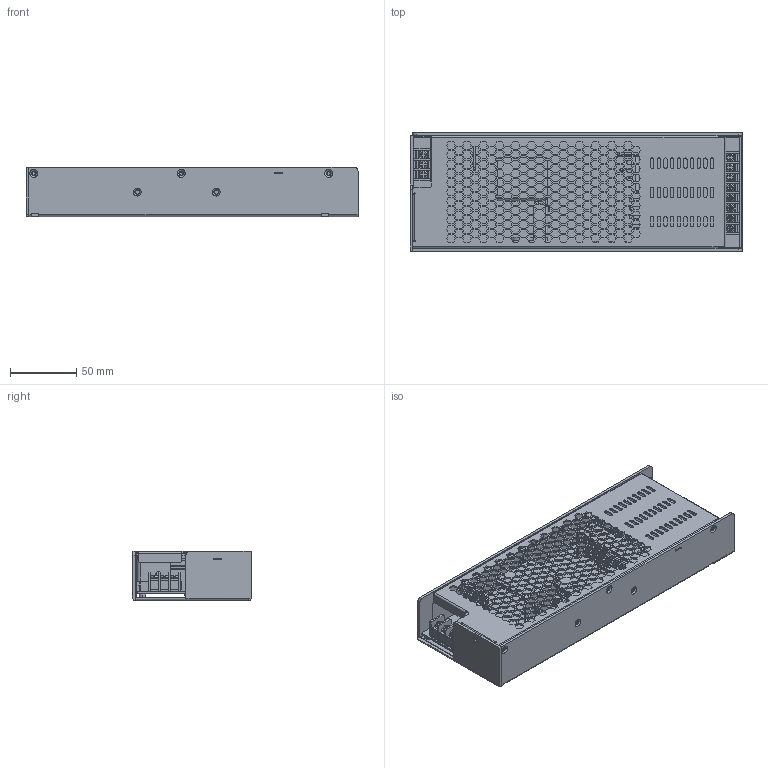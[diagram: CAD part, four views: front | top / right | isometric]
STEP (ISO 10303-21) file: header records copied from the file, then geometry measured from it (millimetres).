
FILE_DESCRIPTION(('Creo Elements/Direct Modeling STEP Export'),'2;1');
FILE_NAME('UMP-400.stp','2019-02-28T 9:31:35',(''),(''),'PTC Creo Elements/Direct Modeling STEP processor for AP214 (Solid Model)','PTC Creo Elements/Direct Modeling 19.0A 04-Oct-2014 (C) Parametric Technology GmbH','');
FILE_SCHEMA(('AUTOMOTIVE_DESIGN { 1 0 10303 214 1 1 1 1 }'));
Length unit declared in the file: millimetre
Products named in the file (32): PCB; TB1; TB2.6; ghjk.1; MOS1; C110; C111; 卡扣; NID; NID.1; NID.2; 1; 安装支架; HS-SZ095; 1HH2UMP-400; HS1; PIN1-1; HS-SZ092; BASE; TOP; CASE; HS-SZ094; PIN2-2; HS2; PIN2-1; PIN2-1.1; HS-SZ093; 1HH126.4x18-3R5; 1HH1UMP-400; UMP-400
Assembly tree (39 placements, depth 3):
  UMP-400
    1HH1UMP-400
    1HH126.4x18-3R5
    HS-SZ093
      PIN2-1.1
      PIN2-1
      HS2
    HS-SZ094
      PIN2-2
      HS-SZ094
    CASE
      TOP
      BASE
    HS-SZ092
      PIN1-1
      HS1
    1HH2UMP-400
    HS-SZ095
    PCB
      安装支架
      1
      NID.2
      NID.1
      NID
      卡扣
      C111
      C110
      ghjk.1  x2
      MOS1
      TB2.6  x8
      TB1
      PCB
Bounding box: 250 x 89 x 37 mm (x, y, z)
Volume: 234311.8 mm3; surface area: 282574.6 mm2
Topology: 34 solids, 34 shells, 3002 faces, 8527 edges, 5651 vertices
Faces by surface type: plane 2451, cylinder 445, torus 84, cone 22
Entity records: 88783 total; most frequent: CARTESIAN_POINT 16652, ORIENTED_EDGE 15172, DIRECTION 13403, EDGE_CURVE 7586, VECTOR 6529, LINE 6529, VERTEX_POINT 5026, AXIS2_PLACEMENT_3D 3437
